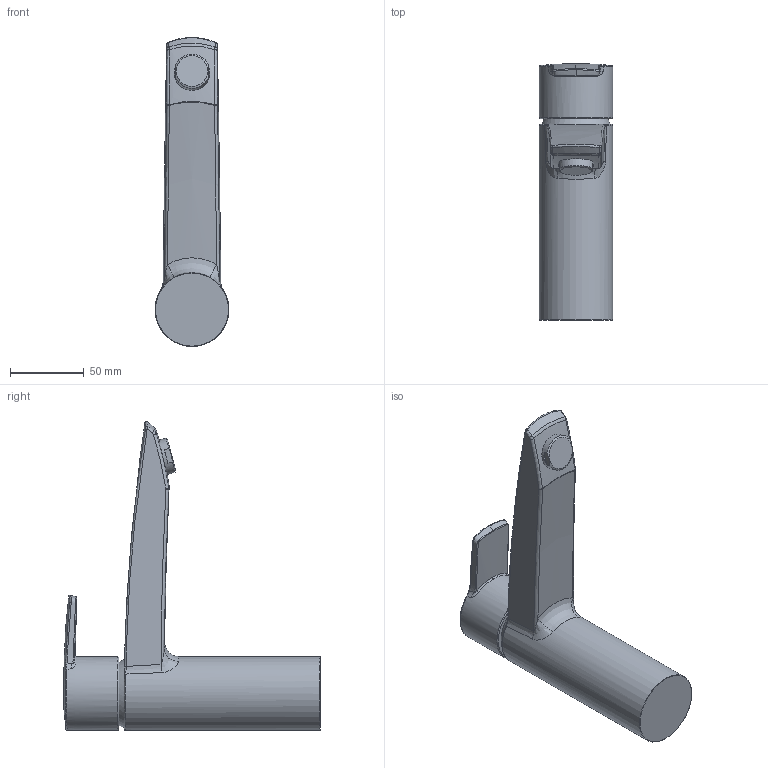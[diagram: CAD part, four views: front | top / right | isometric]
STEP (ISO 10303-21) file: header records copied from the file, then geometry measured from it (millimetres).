
FILE_DESCRIPTION (( 'STEP AP203' ), '1' );
FILE_NAME ('2805+2805F.STEP', '2017-03-09T05:48:51', ( '' ), ( '' ), 'SwSTEP 2.0', 'SolidWorks 2016', '' );
FILE_SCHEMA (( 'CONFIG_CONTROL_DESIGN' ));
Length unit declared in the file: millimetre
Products named in the file (1): 2805+2805F
Bounding box: 50 x 174.08 x 209.69 mm (x, y, z)
Volume: 480251.4 mm3; surface area: 52469.1 mm2
Topology: 1 solids, 1 shells, 80 faces, 193 edges, 118 vertices
Faces by surface type: bspline 64, plane 7, sphere 3, torus 3, cylinder 2, cone 1
Full cylindrical faces by diameter (mm): 24 x1, 50 x1
Entity records: 10258 total; most frequent: CARTESIAN_POINT 8885, ORIENTED_EDGE 366, EDGE_CURVE 183, B_SPLINE_CURVE_WITH_KNOTS 127, VERTEX_POINT 115, DIRECTION 108, EDGE_LOOP 90, FACE_OUTER_BOUND 85
